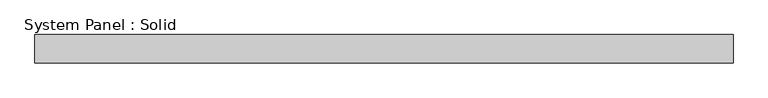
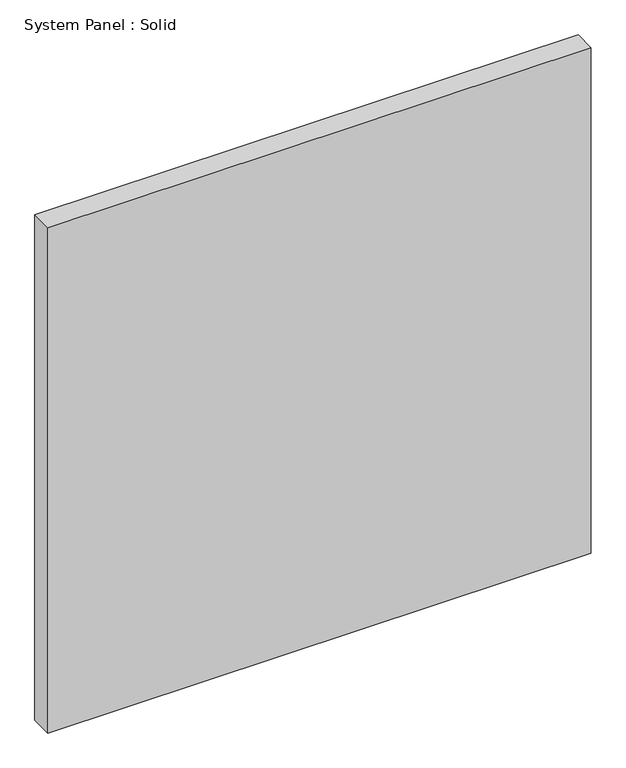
"""IFC4 building model written with IfcOpenShell, lengths in millimetres: plate geometry, System Panel : Solid."""

from ifc_helpers import new_model, si_unit, origin, origin_with_axes, place, context, project, spatial, polyline, outline, extrude, source, transform, mapped, element, save


def system_panel_solid_a570f427(model_context):
    return source(origin(), model_context, "Body", "SweptSolid", [
        extrude(outline(polyline([(737.0, -10.5), (-737.0, -10.5), (-737.0, 49.5), (737.0, 49.5), (737.0, -10.5)])), origin_with_axes(), (0.0, 0.0, 1.0), 1449.0),
    ])


if __name__ == "__main__":
    model = new_model("IFC4")
    model_context = context("Model", 3, world=origin())
    ifc_project = project(units=[si_unit("LENGTHUNIT", "METRE", prefix="MILLI")], contexts=[model_context])
    site = spatial("IfcSite", under=ifc_project)
    building = spatial("IfcBuilding", under=site)
    placement = place(None, origin())
    system_panel_solid_shape = system_panel_solid_a570f427(model_context)
    element("IfcPlate", 1, ObjectType="System Panel : Solid", at=placement, inside=building, context=model_context, shape_type="MappedRepresentation", body=[
        mapped(system_panel_solid_shape, transform((0.0, 0.0, 0.0), x_axis=(1.0, 0.0, 0.0), y_axis=(0.0, 1.0, 0.0), z_axis=(0.0, 0.0, 1.0))),
    ])
    save(model, "model.ifc")
